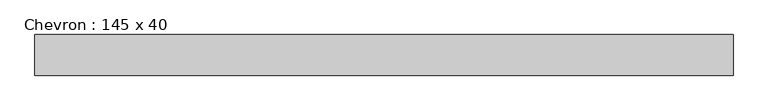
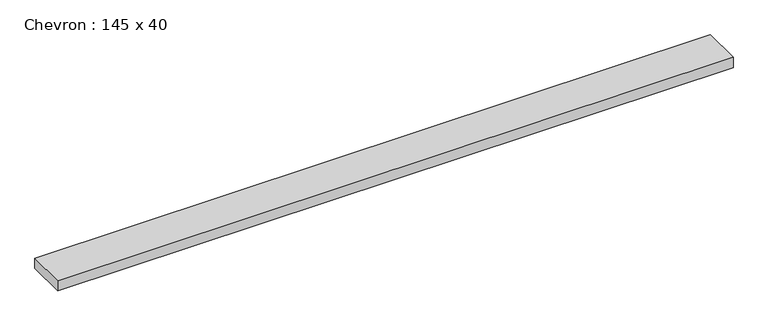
"""IFC4 building model written with IfcOpenShell, lengths in millimetres: beam geometry, Chevron : 145 x 40."""

import ifcopenshell
import ifcopenshell.guid

model = None  # the IFC model being written
_history = None  # IfcOwnerHistory: only IFC2X3 demands one
_inside = {}  # id of a spatial element -> (the spatial element, [elements in it])
_under = {}  # id of a project, library or spatial element -> (it, [spatial elements below it])
_declared = {}  # id of a project -> (the project, [libraries it declares])
_typed = {}  # id of a type object -> (the type object, [elements of that type])
_made_of = {}  # id of a material, layer set ... -> (it, [elements and type objects made of it])


def new_model(schema):
    """Start an empty IFC model of exactly this schema.

    Asked for "IFC4X3", IfcOpenShell would pick the latest addendum, in which some entities
    have other attributes; the version numbers below select the first issue.
    IFC2X3 requires an IfcOwnerHistory on every rooted entity: one is made here for all.
    """
    global model, _history
    if schema == "IFC4X3":
        model = ifcopenshell.file(schema_version=(4, 3, 0, 0))
    else:
        model = ifcopenshell.file(schema=schema)
    _inside.clear()
    _under.clear()
    _declared.clear()
    _typed.clear()
    _made_of.clear()
    _history = None
    if model.schema == "IFC2X3":
        org = make("IfcOrganization", Name="unknown")
        user = make(
            "IfcPersonAndOrganization",
            ThePerson=make("IfcPerson", FamilyName="unknown"),
            TheOrganization=org,
        )
        app = make(
            "IfcApplication",
            ApplicationDeveloper=org,
            Version="unknown",
            ApplicationFullName="unknown",
            ApplicationIdentifier="unknown",
        )
        _history = make(
            "IfcOwnerHistory",
            OwningUser=user,
            OwningApplication=app,
            ChangeAction="ADDED",
            CreationDate=0,
        )
    return model


def make(cls, **values):
    """One entity of the class cls with the attributes given. An attribute that is None is left unset."""
    return model.create_entity(
        cls, **{name: value for name, value in values.items() if value is not None}
    )


def rooted(cls, **values):
    """An entity with a GlobalId (a new one), such as an element, a storey or a relation."""
    return make(cls, GlobalId=ifcopenshell.guid.new(), OwnerHistory=_history, **values)


def si_unit(unit_type, name, prefix=None):
    """IfcSIUnit, for example si_unit("LENGTHUNIT", "METRE", prefix="MILLI")."""
    return make("IfcSIUnit", UnitType=unit_type, Prefix=prefix, Name=name)


def assignment(units):
    """IfcUnitAssignment: the units of a project."""
    return None if units is None else make("IfcUnitAssignment", Units=units)


def point(xyz):
    """IfcCartesianPoint."""
    return None if xyz is None else make("IfcCartesianPoint", Coordinates=xyz)


def direction(xyz):
    """IfcDirection."""
    return None if xyz is None else make("IfcDirection", DirectionRatios=xyz)


def frame(location, z_axis=None, x_axis=None):
    """IfcAxis2Placement3D, a coordinate frame: its origin and axes. An axis left out is left unset."""
    return make(
        "IfcAxis2Placement3D",
        Location=point(location),
        Axis=direction(z_axis),
        RefDirection=direction(x_axis),
    )


def origin():
    """The frame at (0, 0, 0) with its axes left unset."""
    return frame((0.0, 0.0, 0.0))


def place(relative_to, where):
    """IfcLocalPlacement: puts the frame where relative to a parent placement (None: the world)."""
    return make(
        "IfcLocalPlacement", PlacementRelTo=relative_to, RelativePlacement=where
    )


def context(
    kind, dimensions, precision=None, world=None, true_north=None, identifier=None
):
    """IfcGeometricRepresentationContext, for example the 3D "Model" context."""
    return make(
        "IfcGeometricRepresentationContext",
        ContextIdentifier=identifier,
        ContextType=kind,
        CoordinateSpaceDimension=dimensions,
        Precision=precision,
        WorldCoordinateSystem=world,
        TrueNorth=true_north,
    )


def project(units=None, contexts=None):
    """IfcProject with its units and contexts."""
    return rooted(
        "IfcProject",
        Name="project",
        RepresentationContexts=contexts,
        UnitsInContext=assignment(units),
    )


def spatial(cls, under=None, at=None, **own):
    """A site, building, storey or space (cls), placed at a placement, below another one or the project."""
    s = rooted(cls, ObjectPlacement=at, **own)
    if under is not None:
        _under.setdefault(under.id(), (under, []))[1].append(s)
    return s


def polyline(points):
    """IfcPolyline through the points."""
    return make("IfcPolyline", Points=[point(p) for p in points])


def outline(outer, holes=None, kind="AREA"):
    """IfcArbitraryClosedProfileDef: a profile drawn as a closed curve; with holes, ...WithVoids."""
    if holes is None:
        return make("IfcArbitraryClosedProfileDef", ProfileType=kind, OuterCurve=outer)
    return make(
        "IfcArbitraryProfileDefWithVoids",
        ProfileType=kind,
        OuterCurve=outer,
        InnerCurves=holes,
    )


def extrude(swept, where, along, depth):
    """IfcExtrudedAreaSolid: the profile swept, set in the frame where, extruded along a direction by depth."""
    return make(
        "IfcExtrudedAreaSolid",
        SweptArea=swept,
        Position=where,
        ExtrudedDirection=direction(along),
        Depth=depth,
    )


def shape(context_of_items, identifier, shape_type, items):
    """IfcShapeRepresentation: the items that make up one representation, for example the "Body"."""
    return make(
        "IfcShapeRepresentation",
        ContextOfItems=context_of_items,
        RepresentationIdentifier=identifier,
        RepresentationType=shape_type,
        Items=items,
    )


def source(mapping_origin, context_of_items, identifier, shape_type, items):
    """IfcRepresentationMap: a shape defined once, which mapped items show again and again."""
    return make(
        "IfcRepresentationMap",
        MappingOrigin=mapping_origin,
        MappedRepresentation=shape(context_of_items, identifier, shape_type, items),
    )


def transform(
    local_origin,
    x_axis=None,
    y_axis=None,
    z_axis=None,
    scale=None,
    scale2=None,
    scale3=None,
    uniform=True,
):
    """IfcCartesianTransformationOperator3D, or its non-uniform kind. x_axis, y_axis, z_axis: its Axis1, 2, 3."""
    if uniform:
        return make(
            "IfcCartesianTransformationOperator3D",
            Axis1=direction(x_axis),
            Axis2=direction(y_axis),
            LocalOrigin=point(local_origin),
            Scale=scale,
            Axis3=direction(z_axis),
        )
    return make(
        "IfcCartesianTransformationOperator3DnonUniform",
        Axis1=direction(x_axis),
        Axis2=direction(y_axis),
        LocalOrigin=point(local_origin),
        Scale=scale,
        Axis3=direction(z_axis),
        Scale2=scale2,
        Scale3=scale3,
    )


def mapped(mapping_source, mapping_target):
    """IfcMappedItem: shows the shape of a source again, moved by a transform."""
    return make(
        "IfcMappedItem", MappingSource=mapping_source, MappingTarget=mapping_target
    )


def made_of(thing, what):
    """Note that an element or type object is made of a material, layer set ...; save() writes the relation."""
    if what is not None:
        _made_of.setdefault(what.id(), (what, []))[1].append(thing)
    return thing


def element(
    cls,
    number,
    at=None,
    inside=None,
    cuts=None,
    type_object=None,
    material=None,
    context=None,
    identifier="Body",
    shape_type=None,
    held_by="IfcProductDefinitionShape",
    body=None,
    shapes=None,
    **own,
):
    """One element of the class cls, such as IfcWall. Its Tag is "e" and its number.

    at: its placement. inside: the storey or other place that contains it. cuts: it is an
    opening in that element (IfcRelVoidsElement). A single representation is given by context,
    identifier, shape_type and body (its items); several are given by shapes. held_by: the class
    of the entity that holds the representations. save() writes the other relations.
    """
    e = rooted(cls, Tag="e%d" % number, ObjectPlacement=at, **own)
    if body is not None:
        shapes = [shape(context, identifier, shape_type, body)]
    if shapes is not None:
        e.Representation = make(held_by, Representations=shapes)
    if inside is not None:
        _inside.setdefault(inside.id(), (inside, []))[1].append(e)
    if cuts is not None:
        rooted(
            "IfcRelVoidsElement", RelatingBuildingElement=cuts, RelatedOpeningElement=e
        )
    if type_object is not None:
        _typed.setdefault(type_object.id(), (type_object, []))[1].append(e)
    return made_of(e, material)


def aggregate(whole, parts):
    """IfcRelAggregates: a whole, such as a stair, and the parts it consists of."""
    return rooted("IfcRelAggregates", RelatingObject=whole, RelatedObjects=parts)


def save(model, path):
    """Write the relations noted so far, then the file.

    IfcRelAggregates (storeys below a building ...), IfcRelContainedInSpatialStructure (elements
    in a storey), IfcRelDefinesByType, IfcRelAssociatesMaterial and IfcRelDeclares: one each for
    every whole, place, type object, material and project.
    """
    for whole, parts in _under.values():
        aggregate(whole, parts)
    for where, things in _inside.values():
        rooted(
            "IfcRelContainedInSpatialStructure",
            RelatedElements=things,
            RelatingStructure=where,
        )
    for kind, things in _typed.values():
        rooted("IfcRelDefinesByType", RelatedObjects=things, RelatingType=kind)
    for what, things in _made_of.values():
        rooted("IfcRelAssociatesMaterial", RelatedObjects=things, RelatingMaterial=what)
    for by, libraries in _declared.values():
        rooted("IfcRelDeclares", RelatingContext=by, RelatedDefinitions=libraries)
    model.write(path)


def chevron_145_x_40_7ee0f687(model_context):
    return source(origin(), model_context, "Body", "SweptSolid", [
        extrude(outline(polyline([(1245.5, 72.5), (1245.5, -72.5), (-1245.5, -72.5), (-1245.5, 72.5), (1245.5, 72.5)])), frame((0.0, 0.0, -20.0), z_axis=(0.0, 0.0, 1.0), x_axis=(1.0, 0.0, 0.0)), (0.0, 0.0, 1.0), 40.0),
    ])


if __name__ == "__main__":
    model = new_model("IFC4")
    model_context = context("Model", 3, world=origin())
    ifc_project = project(units=[si_unit("LENGTHUNIT", "METRE", prefix="MILLI")], contexts=[model_context])
    site = spatial("IfcSite", under=ifc_project)
    building = spatial("IfcBuilding", under=site)
    placement = place(None, origin())
    chevron_145_x_40_shape = chevron_145_x_40_7ee0f687(model_context)
    element("IfcBeam", 1, ObjectType="Chevron : 145 x 40", at=placement, inside=building, context=model_context, shape_type="MappedRepresentation", body=[
        mapped(chevron_145_x_40_shape, transform((0.0, 0.0, 0.0), x_axis=(1.0, 0.0, 0.0), y_axis=(0.0, 1.0, 0.0), z_axis=(0.0, 0.0, 1.0))),
    ])
    save(model, "model.ifc")
